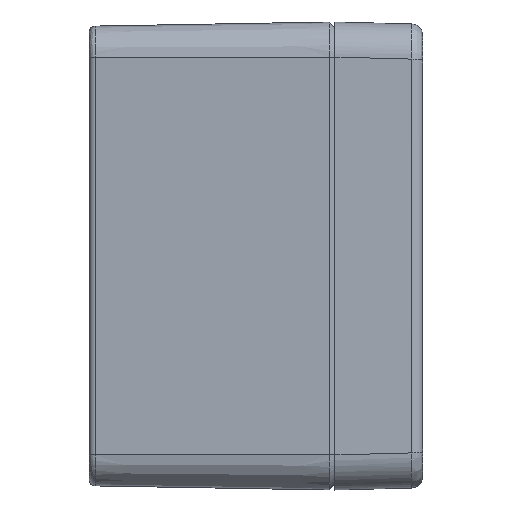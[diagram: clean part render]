
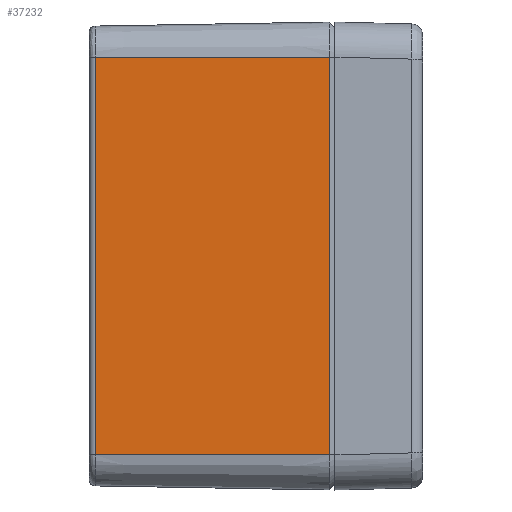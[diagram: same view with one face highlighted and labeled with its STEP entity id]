
A CAD part, left-side view. The second image highlights one B-rep face of the part: STEP entity #37232.
In plain terms, the highlighted planar face has unit normal (-1, 0.018, 0).
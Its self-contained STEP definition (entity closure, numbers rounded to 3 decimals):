
#12 = CARTESIAN_POINT ( 'NONE',  ( -62.151, 20.009, 34. ) ) ;
#81 = ORIENTED_EDGE ( 'NONE', *, *, #12775, .F. ) ;
#253 = CARTESIAN_POINT ( 'NONE',  ( -62.5, 0., 0. ) ) ;
#2000 = CARTESIAN_POINT ( 'NONE',  ( -61.801, 40.017, 34. ) ) ;
#5033 = CARTESIAN_POINT ( 'NONE',  ( -61.801, 40.017, -34. ) ) ;
#6168 = CARTESIAN_POINT ( 'NONE',  ( -62.151, 20.009, -34. ) ) ;
#6968 = VECTOR ( 'NONE', #14482, 1000. ) ;
#7441 = LINE ( 'NONE', #253, #6968 ) ;
#7935 = DIRECTION ( 'NONE',  ( -0.017, -1., 0. ) ) ;
#7968 = FACE_OUTER_BOUND ( 'NONE', #29196, .T. ) ;
#10082 = ORIENTED_EDGE ( 'NONE', *, *, #31279, .T. ) ;
#10105 = VECTOR ( 'NONE', #23396, 1000. ) ;
#10667 = VECTOR ( 'NONE', #34970, 1000. ) ;
#12385 = VERTEX_POINT ( 'NONE', #34275 ) ;
#12387 = LINE ( 'NONE', #34475, #16441 ) ;
#12775 = EDGE_CURVE ( 'NONE', #13476, #12385, #7441, .T. ) ;
#13391 = LINE ( 'NONE', #6168, #10667 ) ;
#13476 = VERTEX_POINT ( 'NONE', #30682 ) ;
#14157 = LINE ( 'NONE', #12, #10105 ) ;
#14482 = DIRECTION ( 'NONE',  ( 0., 0., -1. ) ) ;
#16441 = VECTOR ( 'NONE', #19994, 1000. ) ;
#16626 = CARTESIAN_POINT ( 'NONE',  ( -61.801, 40.017, -34. ) ) ;
#19994 = DIRECTION ( 'NONE',  ( 0., 0., -1. ) ) ;
#21747 = VERTEX_POINT ( 'NONE', #2000 ) ;
#22296 = EDGE_CURVE ( 'NONE', #33101, #12385, #13391, .T. ) ;
#23396 = DIRECTION ( 'NONE',  ( 0.017, 1., 0. ) ) ;
#24848 = AXIS2_PLACEMENT_3D ( 'NONE', #5033, #25159, #7935 ) ;
#25159 = DIRECTION ( 'NONE',  ( -1., 0.017, 0. ) ) ;
#27969 = PLANE ( 'NONE',  #24848 ) ;
#29196 = EDGE_LOOP ( 'NONE', ( #32963, #10082, #36315, #81 ) ) ;
#30682 = CARTESIAN_POINT ( 'NONE',  ( -62.5, 0., 34. ) ) ;
#31279 = EDGE_CURVE ( 'NONE', #21747, #33101, #12387, .T. ) ;
#32194 = EDGE_CURVE ( 'NONE', #13476, #21747, #14157, .T. ) ;
#32963 = ORIENTED_EDGE ( 'NONE', *, *, #32194, .T. ) ;
#33101 = VERTEX_POINT ( 'NONE', #16626 ) ;
#34275 = CARTESIAN_POINT ( 'NONE',  ( -62.5, 0., -34. ) ) ;
#34475 = CARTESIAN_POINT ( 'NONE',  ( -61.801, 40.017, 0. ) ) ;
#34970 = DIRECTION ( 'NONE',  ( -0.017, -1., 0. ) ) ;
#36315 = ORIENTED_EDGE ( 'NONE', *, *, #22296, .T. ) ;
#37232 = ADVANCED_FACE ( 'NONE', ( #7968 ), #27969, .T. ) ;
